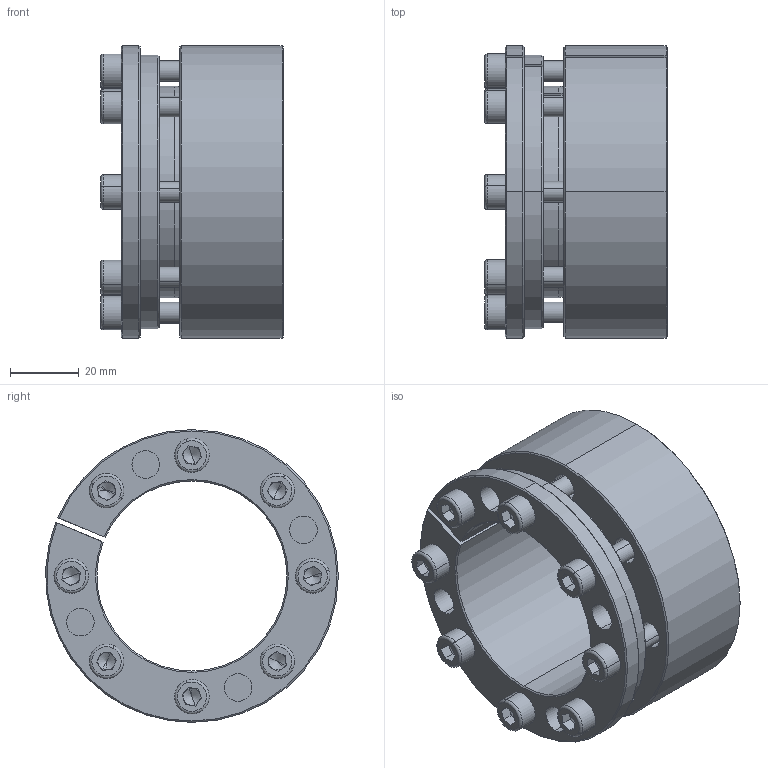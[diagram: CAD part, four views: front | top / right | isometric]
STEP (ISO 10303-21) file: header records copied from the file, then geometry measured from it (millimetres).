
FILE_DESCRIPTION (( 'STEP AP214' ), '1' );
FILE_NAME ('PL-H2 55-85.STEP', '2022-07-25T02:09:56', ( '' ), ( '' ), 'SwSTEP 2.0', 'SolidWorks 2022', '' );
FILE_SCHEMA (( 'AUTOMOTIVE_DESIGN' ));
Length unit declared in the file: millimetre
Products named in the file (1): PL-H2 55-85
Bounding box: 53 x 84.85 x 84.9 mm (x, y, z)
Volume: 121553.6 mm3; surface area: 46913.6 mm2
Topology: 1 solids, 1 shells, 299 faces, 729 edges, 440 vertices
Faces by surface type: plane 128, cylinder 87, cone 68, torus 16
Entity records: 8762 total; most frequent: DIRECTION 1626, CARTESIAN_POINT 1525, ORIENTED_EDGE 1426, EDGE_CURVE 713, AXIS2_PLACEMENT_3D 637, VERTEX_POINT 440, LINE 352, VECTOR 352
